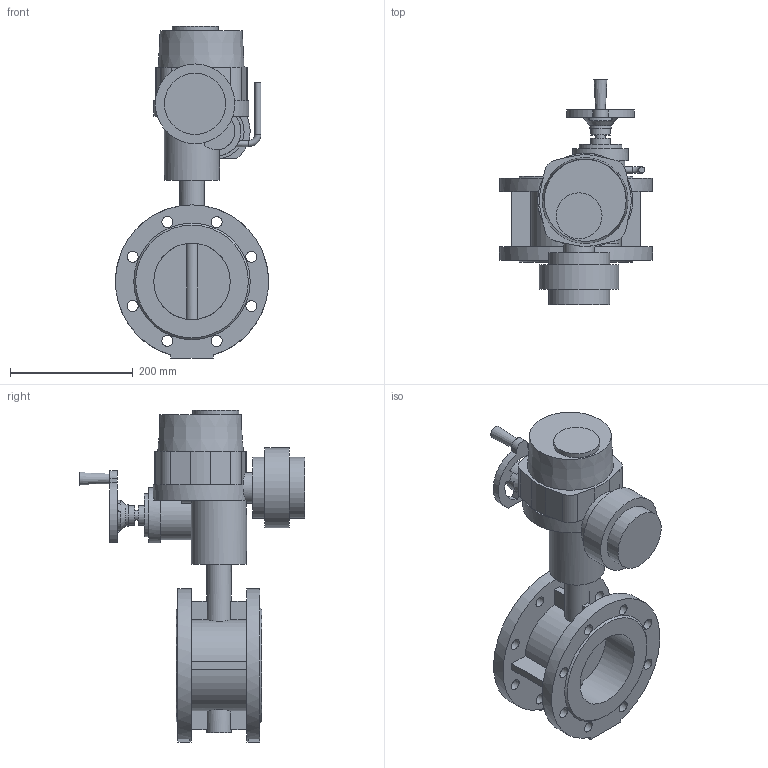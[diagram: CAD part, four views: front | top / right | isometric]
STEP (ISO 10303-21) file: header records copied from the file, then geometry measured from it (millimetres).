
FILE_DESCRIPTION(('STEP AP203'), '1');
FILE_NAME('青蜮铕 021F.Y DN125+菹 QT.A010', '', ('UNSPECIFIED'), ('UNSPECIFIED'), 'ASCON STEP Converter 1.6', 'ASCON Math Kernel', '');
FILE_SCHEMA(('CONFIG_CONTROL_DESIGN'));
Length unit declared in the file: millimetre
Bounding box: 250 x 368 x 542 mm (x, y, z)
Volume: 7137217.9 mm3; surface area: 578675.5 mm2
Topology: 1 solids, 1 shells, 177 faces, 436 edges, 286 vertices
Faces by surface type: plane 99, cylinder 72, cone 5, torus 1
Full cylindrical faces by diameter (mm): 6.7 x4, 10 x6, 16 x1, 18 x16, 32 x2, 35 x1, 40 x2, 50 x1, 70 x1, 75 x1, 90 x2, 100 x2, 125 x2, 130 x1, 250 x2
Entity records: 7972 total; most frequent: CARTESIAN_POINT 2319, DIRECTION 895, ORIENTED_EDGE 772, EDGE_CURVE 386, AXIS2_PLACEMENT_3D 355, EDGE_LOOP 290, VERTEX_POINT 286, FACE_BOUND 200
